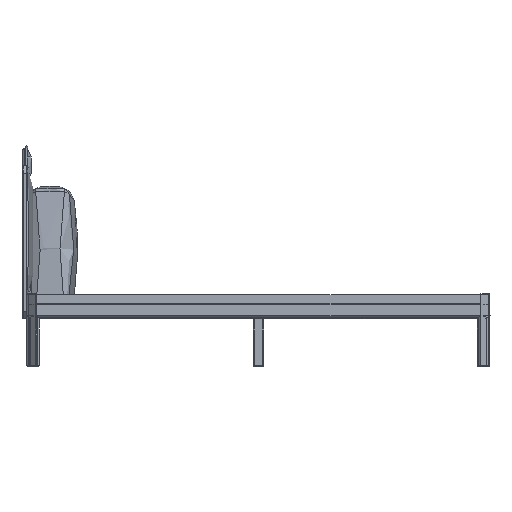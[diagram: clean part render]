
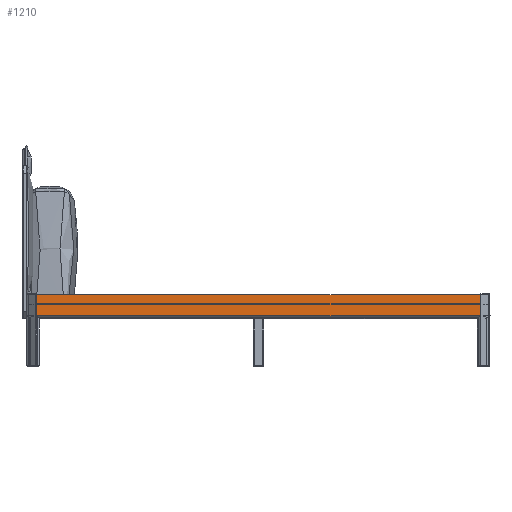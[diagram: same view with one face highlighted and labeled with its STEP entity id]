
A CAD part, left-side view. The second image highlights one B-rep face of the part: STEP entity #1210.
In plain terms, the highlighted planar face has unit normal (-1, 0, 0).
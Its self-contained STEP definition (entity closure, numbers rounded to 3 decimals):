
#1210=ADVANCED_FACE('',(#3358),#31673,.T.);
#3358=FACE_OUTER_BOUND('',#5508,.T.);
#5508=EDGE_LOOP('',(#8312,#8313,#8314,#8315,#8316,#8317));
#8312=ORIENTED_EDGE('',*,*,#18348,.F.);
#8313=ORIENTED_EDGE('',*,*,#18361,.F.);
#8314=ORIENTED_EDGE('',*,*,#18337,.F.);
#8315=ORIENTED_EDGE('',*,*,#18329,.F.);
#8316=ORIENTED_EDGE('',*,*,#18359,.F.);
#8317=ORIENTED_EDGE('',*,*,#18341,.F.);
#18329=EDGE_CURVE('',#28625,#28626,#26345,.T.);
#18337=EDGE_CURVE('',#28626,#28634,#26353,.T.);
#18341=EDGE_CURVE('',#28638,#28639,#26357,.T.);
#18348=EDGE_CURVE('',#28647,#28638,#26364,.T.);
#18359=EDGE_CURVE('',#28639,#28625,#23350,.T.);
#18361=EDGE_CURVE('',#28634,#28647,#26368,.T.);
#23350=(
BOUNDED_CURVE()
B_SPLINE_CURVE(1,(#51110,#51111),.UNSPECIFIED.,.F.,.F.)
B_SPLINE_CURVE_WITH_KNOTS((2,2),(0.,2118.4),.UNSPECIFIED.)
CURVE()
GEOMETRIC_REPRESENTATION_ITEM()
RATIONAL_B_SPLINE_CURVE((1.,1.))
REPRESENTATION_ITEM('')
);
#26345=B_SPLINE_CURVE_WITH_KNOTS('',1,(#50986,#50987),.UNSPECIFIED.,.F.,
 .F.,(2,2),(0.,100.963),.UNSPECIFIED.);
#26353=B_SPLINE_CURVE_WITH_KNOTS('',1,(#51016,#51017),.UNSPECIFIED.,.F.,
 .F.,(2,2),(0.,0.017),.UNSPECIFIED.);
#26357=B_SPLINE_CURVE_WITH_KNOTS('',1,(#51038,#51039),.UNSPECIFIED.,.F.,
 .F.,(2,2),(0.,100.963),.UNSPECIFIED.);
#26364=B_SPLINE_CURVE_WITH_KNOTS('',1,(#51080,#51081),.UNSPECIFIED.,.F.,
 .F.,(2,2),(0.,0.017),.UNSPECIFIED.);
#26368=B_SPLINE_CURVE_WITH_KNOTS('',1,(#51114,#51115),.UNSPECIFIED.,.F.,
 .F.,(2,2),(0.,2118.376),.UNSPECIFIED.);
#28625=VERTEX_POINT('',#50961);
#28626=VERTEX_POINT('',#50962);
#28634=VERTEX_POINT('',#50970);
#28638=VERTEX_POINT('',#50974);
#28639=VERTEX_POINT('',#50975);
#28647=VERTEX_POINT('',#50983);
#31673=PLANE('',#33102);
#33102=AXIS2_PLACEMENT_3D('',#50955,#34830,$);
#34830=DIRECTION('',(-1.,0.,0.));
#50955=CARTESIAN_POINT('',(-5805.5,1174.552,227.32));
#50961=CARTESIAN_POINT('',(-5805.5,-1155.7,338.404));
#50962=CARTESIAN_POINT('',(-5805.5,-1155.7,237.441));
#50970=CARTESIAN_POINT('',(-5805.5,-1155.688,237.429));
#50974=CARTESIAN_POINT('',(-5805.5,962.7,237.441));
#50975=CARTESIAN_POINT('',(-5805.5,962.7,338.404));
#50983=CARTESIAN_POINT('',(-5805.5,962.688,237.429));
#50986=CARTESIAN_POINT('',(-5805.5,-1155.7,338.404));
#50987=CARTESIAN_POINT('',(-5805.5,-1155.7,237.441));
#51016=CARTESIAN_POINT('',(-5805.5,-1155.7,237.441));
#51017=CARTESIAN_POINT('',(-5805.5,-1155.688,237.429));
#51038=CARTESIAN_POINT('',(-5805.5,962.7,237.441));
#51039=CARTESIAN_POINT('',(-5805.5,962.7,338.404));
#51080=CARTESIAN_POINT('',(-5805.5,962.688,237.429));
#51081=CARTESIAN_POINT('',(-5805.5,962.7,237.441));
#51110=CARTESIAN_POINT('',(-5805.5,962.7,338.404));
#51111=CARTESIAN_POINT('',(-5805.5,-1155.7,338.404));
#51114=CARTESIAN_POINT('',(-5805.5,-1155.688,237.429));
#51115=CARTESIAN_POINT('',(-5805.5,962.688,237.429));
